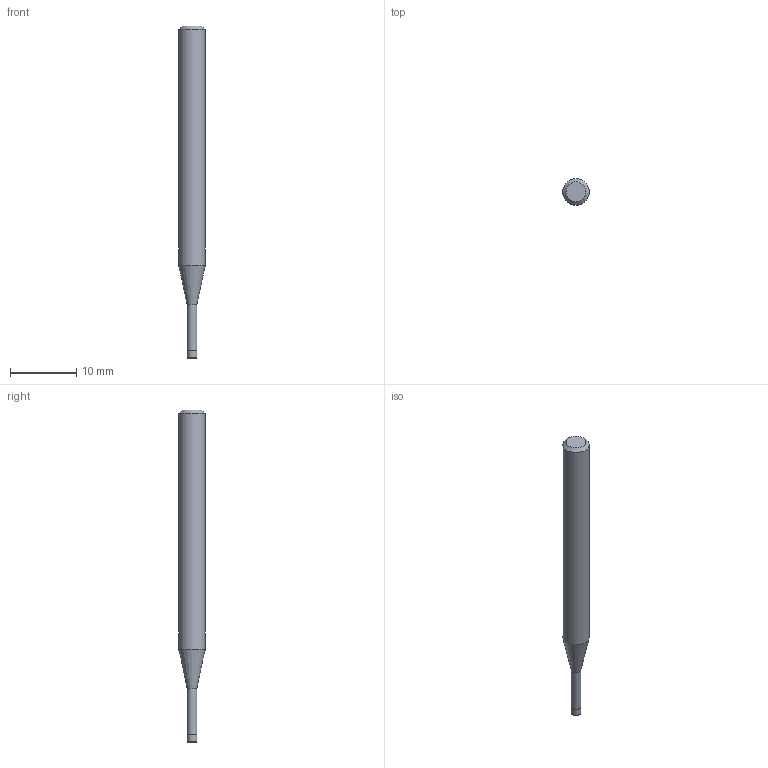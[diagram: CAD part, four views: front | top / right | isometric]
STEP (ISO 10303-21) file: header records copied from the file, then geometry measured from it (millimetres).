
FILE_DESCRIPTION((''),'2;1');
FILE_NAME('C:\Users\nsx150\AppData\Local\Temp\Mastercam 2021\17T8Q8S9EB\TEMP.step','2021-04-21T14:35:29',(''),(''),'STEP Write','Mastercam 2021 ... CNC Software, Inc.','');
FILE_SCHEMA(('AUTOMOTIVE_DESIGN'));
Length unit declared in the file: millimetre
Products named in the file (1): None
Bounding box: 4 x 4 x 50 mm (x, y, z)
Volume: 501.8 mm3; surface area: 555.1 mm2
Topology: 2 solids, 2 shells, 10 faces, 14 edges, 8 vertices
Faces by surface type: plane 4, cylinder 3, cone 2, torus 1
Full cylindrical faces by diameter (mm): 1.45 x1, 1.5 x1, 4 x1
Entity records: 232 total; most frequent: DIRECTION 40, CARTESIAN_POINT 28, AXIS2_PLACEMENT_3D 20, ORIENTED_EDGE 16, EDGE_LOOP 16, STYLED_ITEM 13, ADVANCED_FACE 10, FACE_BOUND 10
